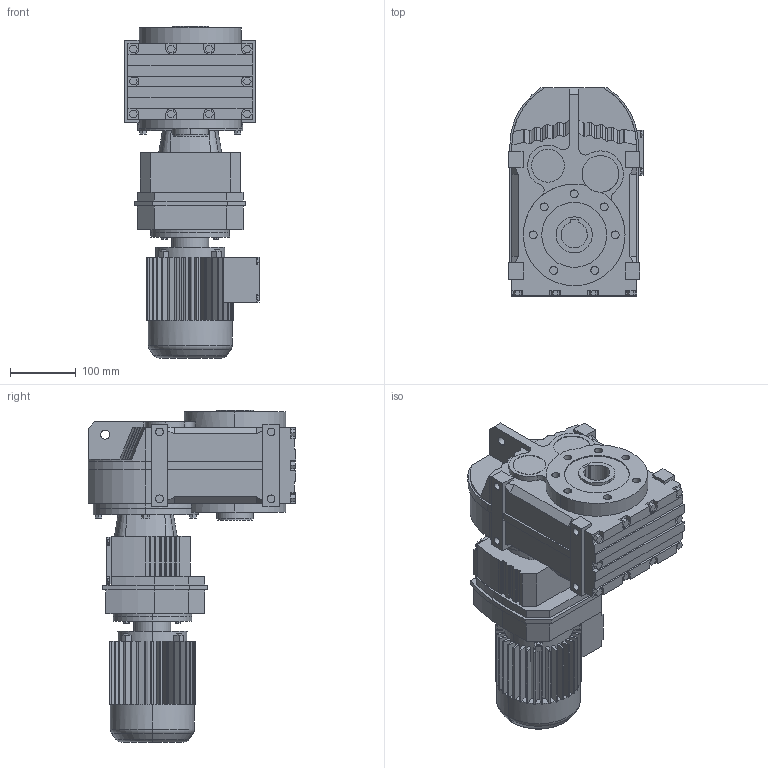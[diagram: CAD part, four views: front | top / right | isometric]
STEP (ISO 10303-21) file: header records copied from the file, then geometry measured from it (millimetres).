
FILE_DESCRIPTION(('Open CASCADE Model'),'2;1');
FILE_NAME('Open CASCADE Shape Model','2021-07-24T10:49:42',('Author'),( 'Open CASCADE'),'Open CASCADE STEP processor 6.3','Open CASCADE 6.3' ,'Unknown');
FILE_SCHEMA(('AUTOMOTIVE_DESIGN_CC2 { 1 2 10303 214 -1 1 5 4 }'));
Length unit declared in the file: millimetre
Products named in the file (5): 1_FA57R37DR63; FA27‵157_57.step; 萇儂_120-DR63-191-246-132-105.step; R_57_37.step; す瑩諾陑粣F_57.step
Assembly tree (4 placements, depth 2):
  1_FA57R37DR63
    FA27‵157_57.step
    萇儂_120-DR63-191-246-132-105.step
    R_57_37.step
    す瑩諾陑粣F_57.step
Bounding box: 205.5 x 317 x 506 mm (x, y, z)
Volume: 12056430.5 mm3; surface area: 714402.6 mm2
Topology: 4 solids, 4 shells, 1004 faces, 2667 edges, 1746 vertices
Faces by surface type: plane 752, cylinder 222, bspline 16, cone 10, torus 4
Entity records: 67236 total; most frequent: CARTESIAN_POINT 15515, DIRECTION 9150, LINE 5481, VECTOR 5481, ORIENTED_EDGE 5334, PCURVE 5334, DEFINITIONAL_REPRESENTATION 5334, EDGE_CURVE 2667
